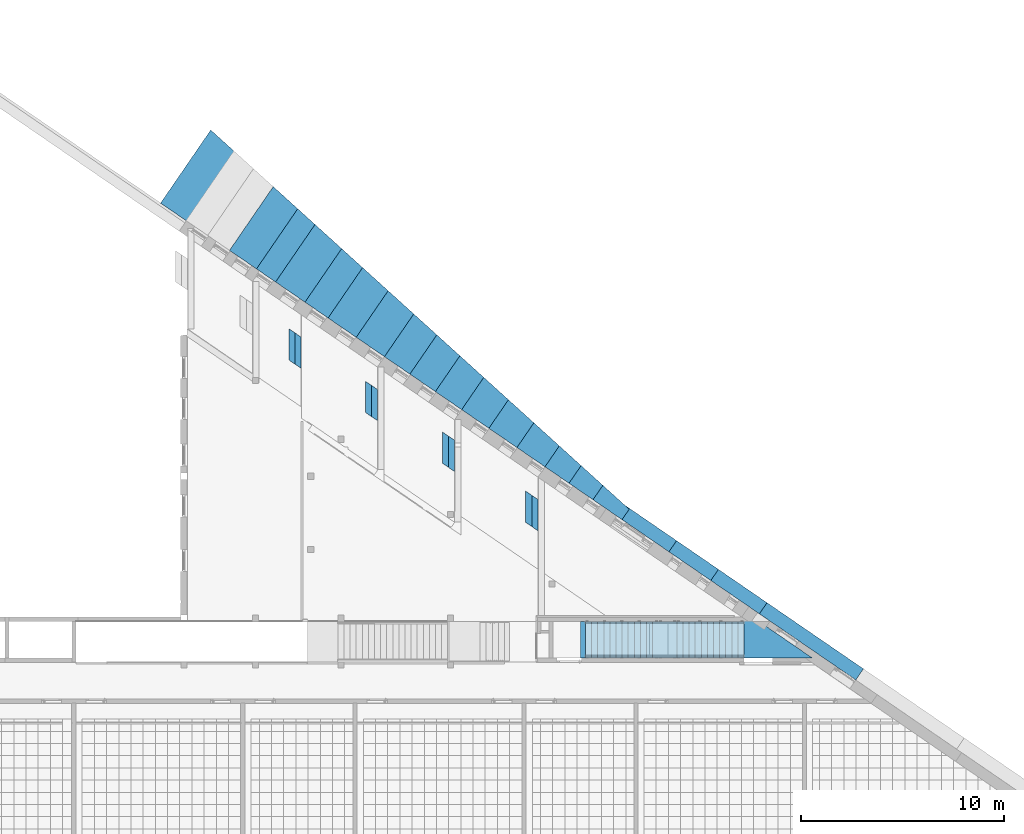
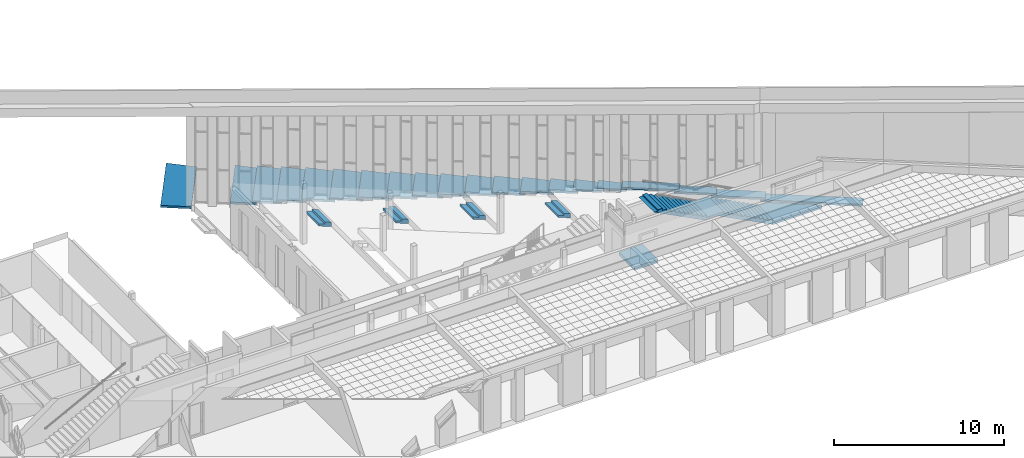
# One storey, part 48 of 79: 27 stairs.
"""IFC2X3 building model written with IfcOpenShell, lengths in millimetres."""

import ifcopenshell
import ifcopenshell.guid

model = None  # the IFC model being written
_history = None  # IfcOwnerHistory: only IFC2X3 demands one
_inside = {}  # id of a spatial element -> (the spatial element, [elements in it])
_under = {}  # id of a project, library or spatial element -> (it, [spatial elements below it])
_declared = {}  # id of a project -> (the project, [libraries it declares])
_typed = {}  # id of a type object -> (the type object, [elements of that type])
_made_of = {}  # id of a material, layer set ... -> (it, [elements and type objects made of it])


def new_model(schema):
    """Start an empty IFC model of exactly this schema.

    Asked for "IFC4X3", IfcOpenShell would pick the latest addendum, in which some entities
    have other attributes; the version numbers below select the first issue.
    IFC2X3 requires an IfcOwnerHistory on every rooted entity: one is made here for all.
    """
    global model, _history
    if schema == "IFC4X3":
        model = ifcopenshell.file(schema_version=(4, 3, 0, 0))
    else:
        model = ifcopenshell.file(schema=schema)
    _inside.clear()
    _under.clear()
    _declared.clear()
    _typed.clear()
    _made_of.clear()
    _history = None
    if model.schema == "IFC2X3":
        org = make("IfcOrganization", Name="unknown")
        user = make(
            "IfcPersonAndOrganization",
            ThePerson=make("IfcPerson", FamilyName="unknown"),
            TheOrganization=org,
        )
        app = make(
            "IfcApplication",
            ApplicationDeveloper=org,
            Version="unknown",
            ApplicationFullName="unknown",
            ApplicationIdentifier="unknown",
        )
        _history = make(
            "IfcOwnerHistory",
            OwningUser=user,
            OwningApplication=app,
            ChangeAction="ADDED",
            CreationDate=0,
        )
    return model


def make(cls, **values):
    """One entity of the class cls with the attributes given. An attribute that is None is left unset."""
    return model.create_entity(
        cls, **{name: value for name, value in values.items() if value is not None}
    )


def entity(cls, *values):
    """Any entity or typed value of the class cls, its attributes in the order of the schema. None: left unset."""
    e = model.create_entity(cls)
    for i, value in enumerate(values):
        if value is not None:
            e[i] = value
    return e


def rooted(cls, **values):
    """An entity with a GlobalId (a new one), such as an element, a storey or a relation."""
    return make(cls, GlobalId=ifcopenshell.guid.new(), OwnerHistory=_history, **values)


def si_unit(unit_type, name, prefix=None):
    """IfcSIUnit, for example si_unit("LENGTHUNIT", "METRE", prefix="MILLI")."""
    return make("IfcSIUnit", UnitType=unit_type, Prefix=prefix, Name=name)


def converted_unit(unit_type, name, factor, base, dimensions=None, offset=None):
    """IfcConversionBasedUnit, such as the inch: factor (a typed value) times the base unit."""
    return make(
        "IfcConversionBasedUnit"
        if offset is None
        else "IfcConversionBasedUnitWithOffset",
        ConversionOffset=offset,
        Dimensions=None
        if dimensions is None
        else entity("IfcDimensionalExponents", *dimensions),
        UnitType=unit_type,
        Name=name,
        ConversionFactor=make(
            "IfcMeasureWithUnit", ValueComponent=factor, UnitComponent=base
        ),
    )


def derived_unit(unit_type, elements):
    """IfcDerivedUnit: a product of units, each with its exponent."""
    return make(
        "IfcDerivedUnit",
        Elements=[
            make("IfcDerivedUnitElement", Unit=unit, Exponent=power)
            for unit, power in elements
        ],
        UnitType=unit_type,
    )


def money_unit(currency):
    """IfcMonetaryUnit."""
    return make("IfcMonetaryUnit", Currency=currency)


def assignment(units):
    """IfcUnitAssignment: the units of a project."""
    return None if units is None else make("IfcUnitAssignment", Units=units)


def point(xyz):
    """IfcCartesianPoint."""
    return None if xyz is None else make("IfcCartesianPoint", Coordinates=xyz)


def direction(xyz):
    """IfcDirection."""
    return None if xyz is None else make("IfcDirection", DirectionRatios=xyz)


def frame(location, z_axis=None, x_axis=None):
    """IfcAxis2Placement3D, a coordinate frame: its origin and axes. An axis left out is left unset."""
    return make(
        "IfcAxis2Placement3D",
        Location=point(location),
        Axis=direction(z_axis),
        RefDirection=direction(x_axis),
    )


def origin_with_axes():
    """The frame at (0, 0, 0) with the z axis (0, 0, 1) and the x axis (1, 0, 0) written out."""
    return frame((0.0, 0.0, 0.0), z_axis=(0.0, 0.0, 1.0), x_axis=(1.0, 0.0, 0.0))


def place(relative_to, where):
    """IfcLocalPlacement: puts the frame where relative to a parent placement (None: the world)."""
    return make(
        "IfcLocalPlacement", PlacementRelTo=relative_to, RelativePlacement=where
    )


def context(
    kind, dimensions, precision=None, world=None, true_north=None, identifier=None
):
    """IfcGeometricRepresentationContext, for example the 3D "Model" context."""
    return make(
        "IfcGeometricRepresentationContext",
        ContextIdentifier=identifier,
        ContextType=kind,
        CoordinateSpaceDimension=dimensions,
        Precision=precision,
        WorldCoordinateSystem=world,
        TrueNorth=true_north,
    )


def subcontext(parent, identifier, kind, view, scale=None):
    """IfcGeometricRepresentationSubContext, for example "Body" below "Model"."""
    return make(
        "IfcGeometricRepresentationSubContext",
        ContextIdentifier=identifier,
        ContextType=kind,
        ParentContext=parent,
        TargetScale=scale,
        TargetView=view,
    )


def project(units=None, contexts=None):
    """IfcProject with its units and contexts."""
    return rooted(
        "IfcProject",
        Name="project",
        RepresentationContexts=contexts,
        UnitsInContext=assignment(units),
    )


def spatial(cls, under=None, at=None, **own):
    """A site, building, storey or space (cls), placed at a placement, below another one or the project."""
    s = rooted(cls, ObjectPlacement=at, **own)
    if under is not None:
        _under.setdefault(under.id(), (under, []))[1].append(s)
    return s


def faces_of(points, faces, orient=None, outer=None):
    """IfcFace entities. A face is a list of loops; a loop is a list of indices into points, from 0.

    orient and outer hold one flag for each loop. By default every Orientation is true, the
    first loop of a face is its IfcFaceOuterBound and the others are IfcFaceBound.
    """
    made = []
    for i, loops in enumerate(faces):
        bounds = []
        for j, loop in enumerate(loops):
            is_outer = j == 0 if outer is None else outer[i][j]
            bounds.append(
                make(
                    "IfcFaceOuterBound" if is_outer else "IfcFaceBound",
                    Bound=make("IfcPolyLoop", Polygon=[points[k] for k in loop]),
                    Orientation=True if orient is None else orient[i][j],
                )
            )
        made.append(make("IfcFace", Bounds=bounds))
    return made


def faceted_brep(points, faces, orient=None, outer=None, voids=None):
    """IfcFacetedBrep: a solid bounded by flat faces; with voids (closed shells), ...WithVoids."""
    shared = [point(p) for p in points]
    hull = make("IfcClosedShell", CfsFaces=faces_of(shared, faces, orient, outer))
    if voids is None:
        return make("IfcFacetedBrep", Outer=hull)
    return make(
        "IfcFacetedBrepWithVoids",
        Outer=hull,
        Voids=[
            make(cls, CfsFaces=faces_of(shared, fs, o, b)) for cls, fs, o, b in voids
        ],
    )


def shape(context_of_items, identifier, shape_type, items):
    """IfcShapeRepresentation: the items that make up one representation, for example the "Body"."""
    return make(
        "IfcShapeRepresentation",
        ContextOfItems=context_of_items,
        RepresentationIdentifier=identifier,
        RepresentationType=shape_type,
        Items=items,
    )


def material(Name=None, Category=None):
    """IfcMaterial."""
    return make("IfcMaterial", Name=Name, Category=Category)


def material_list(materials):
    """IfcMaterialList."""
    return make("IfcMaterialList", Materials=materials)


def made_of(thing, what):
    """Note that an element or type object is made of a material, layer set ...; save() writes the relation."""
    if what is not None:
        _made_of.setdefault(what.id(), (what, []))[1].append(thing)
    return thing


def element(
    cls,
    number,
    at=None,
    inside=None,
    cuts=None,
    type_object=None,
    material=None,
    context=None,
    identifier="Body",
    shape_type=None,
    held_by="IfcProductDefinitionShape",
    body=None,
    shapes=None,
    **own,
):
    """One element of the class cls, such as IfcWall. Its Tag is "e" and its number.

    at: its placement. inside: the storey or other place that contains it. cuts: it is an
    opening in that element (IfcRelVoidsElement). A single representation is given by context,
    identifier, shape_type and body (its items); several are given by shapes. held_by: the class
    of the entity that holds the representations. save() writes the other relations.
    """
    e = rooted(cls, Tag="e%d" % number, ObjectPlacement=at, **own)
    if body is not None:
        shapes = [shape(context, identifier, shape_type, body)]
    if shapes is not None:
        e.Representation = make(held_by, Representations=shapes)
    if inside is not None:
        _inside.setdefault(inside.id(), (inside, []))[1].append(e)
    if cuts is not None:
        rooted(
            "IfcRelVoidsElement", RelatingBuildingElement=cuts, RelatedOpeningElement=e
        )
    if type_object is not None:
        _typed.setdefault(type_object.id(), (type_object, []))[1].append(e)
    return made_of(e, material)


def aggregate(whole, parts):
    """IfcRelAggregates: a whole, such as a stair, and the parts it consists of."""
    return rooted("IfcRelAggregates", RelatingObject=whole, RelatedObjects=parts)


def save(model, path):
    """Write the relations noted so far, then the file.

    IfcRelAggregates (storeys below a building ...), IfcRelContainedInSpatialStructure (elements
    in a storey), IfcRelDefinesByType, IfcRelAssociatesMaterial and IfcRelDeclares: one each for
    every whole, place, type object, material and project.
    """
    for whole, parts in _under.values():
        aggregate(whole, parts)
    for where, things in _inside.values():
        rooted(
            "IfcRelContainedInSpatialStructure",
            RelatedElements=things,
            RelatingStructure=where,
        )
    for kind, things in _typed.values():
        rooted("IfcRelDefinesByType", RelatedObjects=things, RelatingType=kind)
    for what, things in _made_of.values():
        rooted("IfcRelAssociatesMaterial", RelatedObjects=things, RelatingMaterial=what)
    for by, libraries in _declared.values():
        rooted("IfcRelDeclares", RelatingContext=by, RelatedDefinitions=libraries)
    model.write(path)


model = new_model("IFC2X3")

# Units and contexts
model_context = context("Model", 3, precision=0.01, world=origin_with_axes(), true_north=direction((0.0, 1.0)))
body_context = subcontext(model_context, "Body", "Model", "MODEL_VIEW")
ifc_project = project(units=[si_unit("LENGTHUNIT", "METRE", prefix="MILLI"), si_unit("AREAUNIT", "SQUARE_METRE"), si_unit("VOLUMEUNIT", "CUBIC_METRE"), converted_unit("PLANEANGLEUNIT", "DEGREE", entity("IfcPlaneAngleMeasure", 0.0174532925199), si_unit("PLANEANGLEUNIT", "RADIAN"), dimensions=[0, 0, 0, 0, 0, 0, 0]), si_unit("SOLIDANGLEUNIT", "STERADIAN"), money_unit("EUR"), converted_unit("TIMEUNIT", "Year", entity("IfcTimeMeasure", 31556926.0), si_unit("TIMEUNIT", "SECOND"), dimensions=[0, 0, 1, 0, 0, 0, 0]), si_unit("MASSUNIT", "GRAM", prefix="KILO"), si_unit("THERMODYNAMICTEMPERATUREUNIT", "DEGREE_CELSIUS"), si_unit("LUMINOUSINTENSITYUNIT", "LUMEN"), si_unit("ENERGYUNIT", "JOULE", prefix="MEGA"), derived_unit("THERMALCONDUCTANCEUNIT", [(si_unit("POWERUNIT", "WATT"), 1), (si_unit("LENGTHUNIT", "METRE"), -1), (si_unit("THERMODYNAMICTEMPERATUREUNIT", "KELVIN"), -1)]), derived_unit("SPECIFICHEATCAPACITYUNIT", [(si_unit("ENERGYUNIT", "JOULE"), 1), (si_unit("MASSUNIT", "GRAM", prefix="KILO"), -1), (si_unit("THERMODYNAMICTEMPERATUREUNIT", "KELVIN"), -1)]), derived_unit("MASSDENSITYUNIT", [(si_unit("MASSUNIT", "GRAM", prefix="KILO"), 1), (si_unit("VOLUMEUNIT", "CUBIC_METRE"), -1)])], contexts=[model_context])

# Site, building, storey
site_placement = place(None, origin_with_axes())
site = spatial("IfcSite", under=ifc_project, at=site_placement, Name="L.Koidula tn 11b", CompositionType="ELEMENT")
building_placement = place(site_placement, origin_with_axes())
building = spatial("IfcBuilding", under=site, at=building_placement, Name="Rakvere Riigigümnaasium", CompositionType="ELEMENT")
storey_placement = place(building_placement, frame((0.0, 0.0, 3720.0), z_axis=(0.0, 0.0, 1.0), x_axis=(1.0, 0.0, 0.0)))
storey = spatial("IfcBuildingStorey", under=building, at=storey_placement, Name="2.korrus +3,72", CompositionType="ELEMENT", Elevation=3720.0)

# Stairs
ifc_material_1 = material(Name="Betoon")
ifc_material_list = material_list([ifc_material_1, ifc_material_1, ifc_material_1])
stair_1_placement = place(storey_placement, frame((85589.9999916, 17110.4563089, 0.0), z_axis=(0.0, 0.0, 1.0), x_axis=(-1.0, 0.0, 0.0)))
element("IfcStair", 1, at=stair_1_placement, inside=storey, material=ifc_material_list, Name="TR-04", ShapeType="NOTDEFINED", context=body_context, shape_type="Brep", body=[
    faceted_brep([(3300.0, 0.0, 1705.0), (3300.0, 1810.0, 1705.0), (3000.0, 1810.0, 1705.0), (3000.0, 0.0, 1705.0), (3300.0, 0.0, 1710.0), (3300.0, 1810.0, 1710.0), (3300.0, 1810.0, 1479.8827466), (3200.0, 1810.0, 1428.21607993), (3100.0, 1810.0, 1376.54941327), (3000.0, 1810.0, 1324.8827466), (2925.0, 1810.0, 1286.1327466), (2850.0, 1810.0, 1247.3827466), (2775.0, 1810.0, 1208.6327466), (2700.0, 1810.0, 1169.8827466), (2600.0, 1810.0, 1118.21607993), (2500.0, 1810.0, 1066.54941327), (2400.0, 1810.0, 1014.8827466), (2300.0, 1810.0, 963.216079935), (2200.0, 1810.0, 911.549413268), (2100.0, 1810.0, 859.882746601), (2025.0, 1810.0, 821.132746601), (1950.0, 1810.0, 782.382746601), (1875.0, 1810.0, 743.632746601), (1800.0, 1810.0, 704.882746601), (1725.0, 1810.0, 666.132746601), (1650.0, 1810.0, 627.382746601), (1575.0, 1810.0, 588.632746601), (1500.0, 1810.0, 549.882746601), (1400.0, 1810.0, 498.216079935), (1300.0, 1810.0, 446.549413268), (1200.0, 1810.0, 394.882746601), (1125.0, 1810.0, 356.132746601), (1050.0, 1810.0, 317.382746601), (975.0, 1810.0, 278.632746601), (900.0, 1810.0, 239.882746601), (800.0, 1810.0, 188.216079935), (700.0, 1810.0, 136.549413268), (600.0, 1810.0, 84.8827466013), (525.0, 1810.0, 46.1327466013), (450.0, 1810.0, 7.38274660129), (375.0, 1810.0, -31.3672533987), (300.0, 1810.0, -70.1172533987), (200.0, 1810.0, -121.783920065), (100.0, 1810.0, -173.450586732), (0.0, 1810.0, -225.117253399), (0.0, 1810.0, 155.0), (300.0, 1810.0, 155.0), (300.0, 1810.0, 310.0), (600.0, 1810.0, 310.0), (600.0, 1810.0, 465.0), (900.0, 1810.0, 465.0), (900.0, 1810.0, 620.0), (1200.0, 1810.0, 620.0), (1200.0, 1810.0, 775.0), (1500.0, 1810.0, 775.0), (1500.0, 1810.0, 930.0), (1800.0, 1810.0, 930.0), (1800.0, 1810.0, 1085.0), (2100.0, 1810.0, 1085.0), (2100.0, 1810.0, 1240.0), (2400.0, 1810.0, 1240.0), (2400.0, 1810.0, 1395.0), (2700.0, 1810.0, 1395.0), (2700.0, 1810.0, 1550.0), (3000.0, 1810.0, 1550.0), (3745.38823238, 1810.0, 1710.0), (3000.0, 0.0, 1550.0), (2700.0, 0.0, 1550.0), (2700.0, 0.0, 1395.0), (2400.0, 0.0, 1395.0), (2400.0, 0.0, 1240.0), (2100.0, 0.0, 1240.0), (2100.0, 0.0, 1085.0), (1800.0, 0.0, 1085.0), (1800.0, 0.0, 930.0), (1500.0, 0.0, 930.0), (1500.0, 0.0, 775.0), (1200.0, 0.0, 775.0), (1200.0, 0.0, 620.0), (900.0, 0.0, 620.0), (900.0, 0.0, 465.0), (600.0, 0.0, 465.0), (600.0, 0.0, 310.0), (300.0, 0.0, 310.0), (300.0, 0.0, 155.0), (0.0, 0.0, 155.0), (0.0, 0.0, -225.117253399), (100.0, 0.0, -173.450586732), (200.0, 0.0, -121.783920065), (300.0, 0.0, -70.1172533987), (375.0, 0.0, -31.3672533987), (450.0, 0.0, 7.38274660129), (525.0, 0.0, 46.1327466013), (600.0, 0.0, 84.8827466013), (700.0, 0.0, 136.549413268), (800.0, 0.0, 188.216079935), (900.0, 0.0, 239.882746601), (975.0, 0.0, 278.632746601), (1050.0, 0.0, 317.382746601), (1125.0, 0.0, 356.132746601), (1200.0, 0.0, 394.882746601), (1300.0, 0.0, 446.549413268), (1400.0, 0.0, 498.216079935), (1500.0, 0.0, 549.882746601), (1575.0, 0.0, 588.632746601), (1650.0, 0.0, 627.382746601), (1725.0, 0.0, 666.132746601), (1800.0, 0.0, 704.882746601), (1875.0, 0.0, 743.632746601), (1950.0, 0.0, 782.382746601), (2025.0, 0.0, 821.132746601), (2100.0, 0.0, 859.882746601), (2200.0, 0.0, 911.549413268), (2300.0, 0.0, 963.216079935), (2400.0, 0.0, 1014.8827466), (2500.0, 0.0, 1066.54941327), (2600.0, 0.0, 1118.21607993), (2700.0, 0.0, 1169.8827466), (2775.0, 0.0, 1208.6327466), (2850.0, 0.0, 1247.3827466), (2925.0, 0.0, 1286.1327466), (3000.0, 0.0, 1324.8827466), (3100.0, 0.0, 1376.54941327), (3200.0, 0.0, 1428.21607993), (3300.0, 0.0, 1479.8827466), (3745.38823238, 0.0, 1710.0)], [[[0, 1, 2, 3]], [[1, 0, 4, 5]], [[6, 7, 8, 9, 10, 11, 12, 13, 14, 15, 16, 17, 18, 19, 20, 21, 22, 23, 24, 25, 26, 27, 28, 29, 30, 31, 32, 33, 34, 35, 36, 37, 38, 39, 40, 41, 42, 43, 44, 45, 46, 47, 48, 49, 50, 51, 52, 53, 54, 55, 56, 57, 58, 59, 60, 61, 62, 63, 64, 2, 1, 5, 65]], [[3, 2, 64, 66]], [[0, 3, 66, 67, 68, 69, 70, 71, 72, 73, 74, 75, 76, 77, 78, 79, 80, 81, 82, 83, 84, 85, 86, 87, 88, 89, 90, 91, 92, 93, 94, 95, 96, 97, 98, 99, 100, 101, 102, 103, 104, 105, 106, 107, 108, 109, 110, 111, 112, 113, 114, 115, 116, 117, 118, 119, 120, 121, 122, 123, 124, 125, 4]], [[5, 4, 125, 65]], [[124, 123, 7, 6, 65, 125]], [[122, 8, 7, 123]], [[121, 9, 8, 122]], [[120, 10, 9, 121]], [[119, 11, 10, 120]], [[118, 12, 11, 119]], [[117, 13, 12, 118]], [[116, 14, 13, 117]], [[115, 15, 14, 116]], [[114, 16, 15, 115]], [[113, 17, 16, 114]], [[112, 18, 17, 113]], [[111, 19, 18, 112]], [[110, 20, 19, 111]], [[109, 21, 20, 110]], [[108, 22, 21, 109]], [[107, 23, 22, 108]], [[106, 24, 23, 107]], [[105, 25, 24, 106]], [[104, 26, 25, 105]], [[103, 27, 26, 104]], [[102, 28, 27, 103]], [[101, 29, 28, 102]], [[100, 30, 29, 101]], [[99, 31, 30, 100]], [[98, 32, 31, 99]], [[97, 33, 32, 98]], [[96, 34, 33, 97]], [[95, 35, 34, 96]], [[94, 36, 35, 95]], [[93, 37, 36, 94]], [[92, 38, 37, 93]], [[91, 39, 38, 92]], [[90, 40, 39, 91]], [[89, 41, 40, 90]], [[88, 42, 41, 89]], [[87, 43, 42, 88]], [[86, 44, 43, 87]], [[45, 44, 86, 85]], [[45, 85, 84, 46]], [[83, 47, 46, 84]], [[47, 83, 82, 48]], [[81, 49, 48, 82]], [[49, 81, 80, 50]], [[79, 51, 50, 80]], [[51, 79, 78, 52]], [[77, 53, 52, 78]], [[53, 77, 76, 54]], [[75, 55, 54, 76]], [[55, 75, 74, 56]], [[73, 57, 56, 74]], [[57, 73, 72, 58]], [[71, 59, 58, 72]], [[59, 71, 70, 60]], [[69, 61, 60, 70]], [[61, 69, 68, 62]], [[67, 63, 62, 68]], [[63, 67, 66, 64]]]),
    faceted_brep([(3300.0, 1810.0, 1710.0), (3300.0, 0.0, 1710.0), (3300.0, 0.0, 1860.0), (3300.0, 1810.0, 1860.0), (3600.0, 1810.0, 1710.0), (4200.0, 1810.0, 1710.0), (4500.0, 1810.0, 1710.0), (4500.0, 0.0, 1710.0), (4200.0, 0.0, 1710.0), (3600.0, 0.0, 1710.0), (3600.0, 0.0, 1860.0), (4200.0, 0.0, 1860.0), (4500.0, 0.0, 1860.0), (4500.0, 1810.0, 1860.0), (4200.0, 1810.0, 1860.0), (3600.0, 1810.0, 1860.0)], [[[0, 1, 2, 3]], [[0, 4, 5, 6, 7, 8, 9, 1]], [[1, 9, 10, 2]], [[3, 2, 10, 11, 12, 13, 14, 15]], [[4, 0, 3, 15]], [[5, 4, 15, 14]], [[6, 5, 14, 13]], [[7, 6, 13, 12]], [[8, 7, 12, 11]], [[9, 8, 11, 10]]]),
    faceted_brep([(7800.0, 0.0, 3465.0), (7800.0, 1810.0, 3465.0), (7800.0, 1810.0, 3565.0), (7800.0, 0.0, 3565.0), (8042.16242593, 0.0, 3465.0), (8042.16242593, 1810.0, 3465.0), (7800.0, 1810.0, 3339.8827466), (7700.0, 1810.0, 3288.21607993), (7600.0, 1810.0, 3236.54941327), (7500.0, 1810.0, 3184.8827466), (7425.0, 1810.0, 3146.1327466), (7350.0, 1810.0, 3107.3827466), (7275.0, 1810.0, 3068.6327466), (7200.0, 1810.0, 3029.8827466), (7100.0, 1810.0, 2978.21607993), (7000.0, 1810.0, 2926.54941327), (6900.0, 1810.0, 2874.8827466), (6825.0, 1810.0, 2836.1327466), (6750.0, 1810.0, 2797.3827466), (6675.0, 1810.0, 2758.6327466), (6600.0, 1810.0, 2719.8827466), (6500.0, 1810.0, 2668.21607993), (6400.0, 1810.0, 2616.54941327), (6300.0, 1810.0, 2564.8827466), (6200.0, 1810.0, 2513.21607993), (6100.0, 1810.0, 2461.54941327), (6000.0, 1810.0, 2409.8827466), (5900.0, 1810.0, 2358.21607993), (5800.0, 1810.0, 2306.54941327), (5700.0, 1810.0, 2254.8827466), (5600.0, 1810.0, 2203.21607993), (5500.0, 1810.0, 2151.54941327), (5400.0, 1810.0, 2099.8827466), (5325.0, 1810.0, 2061.1327466), (5250.0, 1810.0, 2022.3827466), (5175.0, 1810.0, 1983.6327466), (5100.0, 1810.0, 1944.8827466), (5000.0, 1810.0, 1893.21607993), (4900.0, 1810.0, 1841.54941327), (4800.0, 1810.0, 1789.8827466), (4700.0, 1810.0, 1738.21607993), (4645.38823238, 1810.0, 1710.0), (4500.0, 1810.0, 1710.0), (4500.0, 1810.0, 2015.0), (4800.0, 1810.0, 2015.0), (4800.0, 1810.0, 2170.0), (5100.0, 1810.0, 2170.0), (5100.0, 1810.0, 2325.0), (5400.0, 1810.0, 2325.0), (5400.0, 1810.0, 2480.0), (5700.0, 1810.0, 2480.0), (5700.0, 1810.0, 2635.0), (6000.0, 1810.0, 2635.0), (6000.0, 1810.0, 2790.0), (6300.0, 1810.0, 2790.0), (6300.0, 1810.0, 2945.0), (6600.0, 1810.0, 2945.0), (6600.0, 1810.0, 3100.0), (6900.0, 1810.0, 3100.0), (6900.0, 1810.0, 3255.0), (7200.0, 1810.0, 3255.0), (7200.0, 1810.0, 3410.0), (7500.0, 1810.0, 3410.0), (7500.0, 1810.0, 3565.0), (7500.0, 0.0, 3565.0), (7500.0, 0.0, 3410.0), (7200.0, 0.0, 3410.0), (7200.0, 0.0, 3255.0), (6900.0, 0.0, 3255.0), (6900.0, 0.0, 3100.0), (6600.0, 0.0, 3100.0), (6600.0, 0.0, 2945.0), (6300.0, 0.0, 2945.0), (6300.0, 0.0, 2790.0), (6000.0, 0.0, 2790.0), (6000.0, 0.0, 2635.0), (5700.0, 0.0, 2635.0), (5700.0, 0.0, 2480.0), (5400.0, 0.0, 2480.0), (5400.0, 0.0, 2325.0), (5100.0, 0.0, 2325.0), (5100.0, 0.0, 2170.0), (4800.0, 0.0, 2170.0), (4800.0, 0.0, 2015.0), (4500.0, 0.0, 2015.0), (4500.0, 0.0, 1710.0), (4645.38823238, 0.0, 1710.0), (4700.0, 0.0, 1738.21607993), (4800.0, 0.0, 1789.8827466), (4900.0, 0.0, 1841.54941327), (5000.0, 0.0, 1893.21607993), (5100.0, 0.0, 1944.8827466), (5175.0, 0.0, 1983.6327466), (5250.0, 0.0, 2022.3827466), (5325.0, 0.0, 2061.1327466), (5400.0, 0.0, 2099.8827466), (5500.0, 0.0, 2151.54941327), (5600.0, 0.0, 2203.21607993), (5700.0, 0.0, 2254.8827466), (5800.0, 0.0, 2306.54941327), (5900.0, 0.0, 2358.21607993), (6000.0, 0.0, 2409.8827466), (6100.0, 0.0, 2461.54941327), (6200.0, 0.0, 2513.21607993), (6300.0, 0.0, 2564.8827466), (6400.0, 0.0, 2616.54941327), (6500.0, 0.0, 2668.21607993), (6600.0, 0.0, 2719.8827466), (6675.0, 0.0, 2758.6327466), (6750.0, 0.0, 2797.3827466), (6825.0, 0.0, 2836.1327466), (6900.0, 0.0, 2874.8827466), (7000.0, 0.0, 2926.54941327), (7100.0, 0.0, 2978.21607993), (7200.0, 0.0, 3029.8827466), (7275.0, 0.0, 3068.6327466), (7350.0, 0.0, 3107.3827466), (7425.0, 0.0, 3146.1327466), (7500.0, 0.0, 3184.8827466), (7600.0, 0.0, 3236.54941327), (7700.0, 0.0, 3288.21607993), (7800.0, 0.0, 3339.8827466)], [[[0, 1, 2, 3]], [[1, 0, 4, 5]], [[6, 7, 8, 9, 10, 11, 12, 13, 14, 15, 16, 17, 18, 19, 20, 21, 22, 23, 24, 25, 26, 27, 28, 29, 30, 31, 32, 33, 34, 35, 36, 37, 38, 39, 40, 41, 42, 43, 44, 45, 46, 47, 48, 49, 50, 51, 52, 53, 54, 55, 56, 57, 58, 59, 60, 61, 62, 63, 2, 1, 5]], [[64, 3, 2, 63]], [[0, 3, 64, 65, 66, 67, 68, 69, 70, 71, 72, 73, 74, 75, 76, 77, 78, 79, 80, 81, 82, 83, 84, 85, 86, 87, 88, 89, 90, 91, 92, 93, 94, 95, 96, 97, 98, 99, 100, 101, 102, 103, 104, 105, 106, 107, 108, 109, 110, 111, 112, 113, 114, 115, 116, 117, 118, 119, 120, 121, 4]], [[121, 120, 7, 6, 5, 4]], [[119, 8, 7, 120]], [[118, 9, 8, 119]], [[117, 10, 9, 118]], [[116, 11, 10, 117]], [[115, 12, 11, 116]], [[114, 13, 12, 115]], [[113, 14, 13, 114]], [[112, 15, 14, 113]], [[111, 16, 15, 112]], [[110, 17, 16, 111]], [[109, 18, 17, 110]], [[108, 19, 18, 109]], [[107, 20, 19, 108]], [[106, 21, 20, 107]], [[105, 22, 21, 106]], [[104, 23, 22, 105]], [[103, 24, 23, 104]], [[102, 25, 24, 103]], [[101, 26, 25, 102]], [[100, 27, 26, 101]], [[99, 28, 27, 100]], [[98, 29, 28, 99]], [[97, 30, 29, 98]], [[96, 31, 30, 97]], [[95, 32, 31, 96]], [[94, 33, 32, 95]], [[93, 34, 33, 94]], [[92, 35, 34, 93]], [[91, 36, 35, 92]], [[90, 37, 36, 91]], [[89, 38, 37, 90]], [[88, 39, 38, 89]], [[87, 40, 39, 88]], [[86, 41, 40, 87]], [[85, 42, 41, 86]], [[42, 85, 84, 43]], [[43, 84, 83, 44]], [[82, 45, 44, 83]], [[45, 82, 81, 46]], [[80, 47, 46, 81]], [[47, 80, 79, 48]], [[78, 49, 48, 79]], [[49, 78, 77, 50]], [[76, 51, 50, 77]], [[51, 76, 75, 52]], [[74, 53, 52, 75]], [[53, 74, 73, 54]], [[72, 55, 54, 73]], [[55, 72, 71, 56]], [[70, 57, 56, 71]], [[57, 70, 69, 58]], [[68, 59, 58, 69]], [[59, 68, 67, 60]], [[66, 61, 60, 67]], [[61, 66, 65, 62]], [[64, 63, 62, 65]]]),
])
stair_2_placement = place(storey_placement, frame((63190.0209265, 29612.4424466, -1395.0), z_axis=(0.0, 0.0, 1.0), x_axis=(1.0, 0.0, 0.0)))
element("IfcStair", 2, at=stair_2_placement, inside=storey, material=ifc_material_1, Name="Trepp", ShapeType="NOTDEFINED", context=body_context, shape_type="Brep", body=[
    faceted_brep([(300.0, 153.251805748, 155.0), (300.0, 1693.26263952, 155.0), (4.68853542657e-05, 1899.00763482, 155.0), (4.68853542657e-05, 358.965165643, 155.0), (300.0, 153.251805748, 310.0), (300.0, 1693.26263952, 310.0), (4.68853542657e-05, 1899.00763482, 0.0), (600.000004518, 1487.51760896, 310.0), (600.000004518, 1487.51760896, 0.0), (4.68853542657e-05, 358.965165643, 0.0), (600.000000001, -52.4615862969, 0.0), (600.000000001, -52.4615862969, 310.0)], [[[0, 1, 2, 3]], [[1, 0, 4, 5]], [[6, 2, 1, 5, 7, 8]], [[2, 6, 9, 3]], [[0, 3, 9, 10, 11, 4]], [[7, 5, 4, 11]], [[11, 10, 8, 7]], [[8, 10, 9, 6]]]),
])
stair_3_placement = place(storey_placement, frame((70739.9980729, 24535.2715884, -465.0), z_axis=(0.0, 0.0, 1.0), x_axis=(1.0, 0.0, 0.0)))
element("IfcStair", 3, at=stair_3_placement, inside=storey, material=ifc_material_1, Name="Trepp", ShapeType="NOTDEFINED", context=body_context, shape_type="Brep", body=[
    faceted_brep([(300.0, 152.058707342, 155.0), (300.0, 1692.06949597, 155.0), (0.0, 1897.81447449, 155.0), (0.0, 357.772096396, 155.0), (300.0, 152.058707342, 310.0), (300.0, 1692.06949597, 310.0), (0.0, 1897.81447449, 0.0), (600.0, 1486.32451745, 310.0), (600.0, 1486.32451745, 0.0), (0.0, 357.772096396, 0.0), (600.0, -53.6546817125, 0.0), (600.0, -53.6546817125, 310.0)], [[[0, 1, 2, 3]], [[1, 0, 4, 5]], [[6, 2, 1, 5, 7, 8]], [[2, 6, 9, 3]], [[0, 3, 9, 10, 11, 4]], [[7, 5, 4, 11]], [[11, 10, 8, 7]], [[8, 10, 9, 6]]]),
])
stair_4_placement = place(storey_placement, frame((75989.9821418, 15300.4792445, 0.0), z_axis=(0.0, 0.0, 1.0), x_axis=(1.0, 0.0, 0.0)))
element("IfcStair", 4, at=stair_4_placement, inside=storey, material=ifc_material_1, Name="TR-03", ShapeType="NOTDEFINED", context=body_context, shape_type="Brep", body=[
    faceted_brep([(199.997738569, 1809.97626778, -250.0), (199.997745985, -5.02933961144e-05, -250.0), (199.997745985, -5.02933961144e-05, 0.0), (199.997738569, 1809.97626778, 0.0), (1800.01785205, -0.000452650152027, -250.0), (1800.01785205, 1809.97626778, -250.0), (1800.01785205, -0.000452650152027, 0.0), (200.026989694, 1809.97629966, 0.0), (1800.01785205, 1809.97629896, 0.0)], [[[0, 1, 2, 3]], [[4, 1, 0, 5]], [[6, 2, 1, 4]], [[7, 3, 2, 6, 8]], [[5, 0, 3, 7, 8]], [[8, 6, 4, 5]]]),
])
ifc_material_2 = material(Name="Betoon element / plaat")
stair_5_placement = place(storey_placement, frame((85589.9999916, 17119.8980157, 0.0), z_axis=(0.0, 0.0, 1.0), x_axis=(1.0, 0.0, 0.0)))
element("IfcStair", 5, at=stair_5_placement, inside=storey, material=ifc_material_2, Name="TR-04", ShapeType="NOTDEFINED", context=body_context, shape_type="Brep", body=[
    faceted_brep([(0.0, -1819.44170683, 0.0), (0.0, 0.0, 0.0), (0.0, 0.0, -250.0), (0.0, -1819.44170683, -250.0), (3369.63875238, -1819.44788062, 0.0), (716.917350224, 0.000129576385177, 0.0), (716.917350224, 0.000129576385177, -250.0), (3369.63875238, -1819.44788062, -250.0)], [[[0, 1, 2, 3]], [[4, 5, 1, 0]], [[1, 5, 6, 2]], [[7, 3, 2, 6]], [[4, 0, 3, 7]], [[5, 4, 7, 6]]]),
])
stair_6_placement = place(storey_placement, frame((66945.0094974, 27036.9819088, -929.999981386), z_axis=(0.0, 0.0, 1.0), x_axis=(1.0, 0.0, 0.0)))
element("IfcStair", 6, at=stair_6_placement, inside=storey, material=ifc_material_1, Name="Trepp", ShapeType="NOTDEFINED", context=body_context, shape_type="Brep", body=[
    faceted_brep([(300.0, 153.251805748, 155.0), (300.0, 1693.26263952, 155.0), (4.68853471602e-05, 1899.00763482, 155.0), (4.68853471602e-05, 358.965165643, 155.0), (300.0, 153.251805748, 310.0), (300.0, 1693.26263952, 310.0), (4.68853471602e-05, 1899.00763482, 0.0), (600.000004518, 1487.51760896, 310.0), (600.000004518, 1487.51760896, 0.0), (4.68853471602e-05, 358.965165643, 0.0), (600.000000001, -52.461586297, 0.0), (600.000000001, -52.461586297, 310.0)], [[[0, 1, 2, 3]], [[1, 0, 4, 5]], [[6, 2, 1, 5, 7, 8]], [[2, 6, 9, 3]], [[0, 3, 9, 10, 11, 4]], [[7, 5, 4, 11]], [[11, 10, 8, 7]], [[8, 10, 9, 6]]]),
])
stair_7_placement = place(storey_placement, frame((74845.08798, 21619.6277286, 0.0), z_axis=(0.0, 0.0, 1.0), x_axis=(1.0, 0.0, 0.0)))
element("IfcStair", 7, at=stair_7_placement, inside=storey, material=ifc_material_1, Name="Trepp", ShapeType="NOTDEFINED", context=body_context, shape_type="Brep", body=[
    faceted_brep([(300.0, 152.058505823, 155.0), (300.0, 1692.06929445, 155.0), (0.0, 1897.81447449, 155.0), (0.0, 357.772096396, 155.0), (300.0, 152.058505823, 310.0), (300.0, 1692.06929445, 310.0), (0.0, 1897.81447449, 0.0), (600.0, 1486.32411441, 310.0), (600.0, 1486.32411441, 0.0), (0.0, 357.772096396, 0.0), (600.0, -53.6550847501, 0.0), (600.0, -53.6550847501, 310.0)], [[[0, 1, 2, 3]], [[1, 0, 4, 5]], [[6, 2, 1, 5, 7, 8]], [[2, 6, 9, 3]], [[0, 3, 9, 10, 11, 4]], [[7, 5, 4, 11]], [[11, 10, 8, 7]], [[8, 10, 9, 6]]]),
])
stair_8_placement = place(storey_placement, frame((56867.2938487, 37696.6324927, -2374.79633169), z_axis=(0.0, 0.0, 1.0), x_axis=(1.0, 0.0, 0.0)))
element("IfcStair", 8, at=stair_8_placement, inside=storey, material=ifc_material_1, Name="Astmestik-2", ShapeType="NOTDEFINED", context=body_context, shape_type="Brep", body=[
    faceted_brep([(0.0, 0.0, 0.0), (0.0, 0.0, -150.0), (1496.45562979, -1026.38517967, -150.0), (1496.45562979, -1026.38517967, 0.0), (2469.93871911, 3601.13705326, 0.0), (2469.93871911, 3601.13705326, -150.0), (3826.955114, 2371.45136594, -150.0), (3826.955114, 2371.45136594, 0.0)], [[[0, 1, 2, 3]], [[4, 5, 1, 0]], [[2, 1, 5, 6]], [[3, 2, 6, 7]], [[4, 0, 3, 7]], [[7, 6, 5, 4]]]),
])
stair_9_placement = place(storey_placement, frame((60260.8037857, 35369.0971221, -1909.79633169), z_axis=(0.0, 0.0, 1.0), x_axis=(1.0, 0.0, 0.0)))
element("IfcStair", 9, at=stair_9_placement, inside=storey, material=ifc_material_1, Name="Astmestik-2", ShapeType="NOTDEFINED", context=body_context, shape_type="Brep", body=[
    faceted_brep([(0.0, 0.0, 0.0), (0.0, 0.0, -150.0), (1327.65734891, -910.610244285, -150.0), (1327.65734891, -910.610244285, 0.0), (2153.73404083, 3140.11493374, 0.0), (2153.73404083, 3140.11493374, -150.0), (3357.68072218, 2049.13621903, -150.0), (3357.68072218, 2049.13621903, 0.0)], [[[0, 1, 2, 3]], [[4, 5, 1, 0]], [[2, 1, 5, 6]], [[3, 2, 6, 7]], [[4, 0, 3, 7]], [[7, 6, 5, 4]]]),
])
stair_10_placement = place(storey_placement, frame((61341.0613086, 34628.172841, -1754.79633169), z_axis=(0.0, 0.0, 1.0), x_axis=(1.0, 0.0, 0.0)))
element("IfcStair", 10, at=stair_10_placement, inside=storey, material=ifc_material_1, Name="Astmestik-2", ShapeType="NOTDEFINED", context=body_context, shape_type="Brep", body=[
    faceted_brep([(0.0, 0.0, 0.0), (0.0, 0.0, -150.0), (1434.9075459, -984.170736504, -150.0), (1434.9075459, -984.170736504, 0.0), (2053.07600629, 2993.35688866, 0.0), (2053.07600629, 2993.35688866, -150.0), (3354.27934716, 1814.24724004, -150.0), (3354.27934716, 1814.24724004, 0.0)], [[[0, 1, 2, 3]], [[4, 5, 1, 0]], [[2, 1, 5, 6]], [[3, 2, 6, 7]], [[4, 0, 3, 7]], [[7, 6, 5, 4]]]),
])
stair_11_placement = place(storey_placement, frame((62528.5687204, 33813.688279, -1599.79633169), z_axis=(0.0, 0.0, 1.0), x_axis=(1.0, 0.0, 0.0)))
element("IfcStair", 11, at=stair_11_placement, inside=storey, material=ifc_material_1, Name="Astmestik-2", ShapeType="NOTDEFINED", context=body_context, shape_type="Brep", body=[
    faceted_brep([(0.0, 0.0, 0.0), (0.0, 0.0, -150.0), (1447.30088073, -992.671045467, -150.0), (1447.30088073, -992.671045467, 0.0), (1942.42446298, 2832.02844374, 0.0), (1942.42446298, 2832.02844374, -150.0), (3254.8663319, 1642.73479356, -150.0), (3254.8663319, 1642.73479356, 0.0)], [[[0, 1, 2, 3]], [[4, 5, 1, 0]], [[2, 1, 5, 6]], [[3, 2, 6, 7]], [[4, 0, 3, 7]], [[7, 6, 5, 4]]]),
])
stair_12_placement = place(storey_placement, frame((63728.4697751, 32990.7031967, -1444.79633169), z_axis=(0.0, 0.0, 1.0), x_axis=(1.0, 0.0, 0.0)))
element("IfcStair", 12, at=stair_12_placement, inside=storey, material=ifc_material_1, Name="Astmestik-2", ShapeType="NOTDEFINED", context=body_context, shape_type="Brep", body=[
    faceted_brep([(0.0, 0.0, 0.0), (0.0, 0.0, -150.0), (1632.4822687, -1119.68278466, -150.0), (1632.4822687, -1119.68278466, 0.0), (1830.61808417, 2669.01626436, 0.0), (1830.61808417, 2669.01626436, -150.0), (3310.98620128, 1327.55311593, -150.0), (3310.98620128, 1327.55311593, 0.0)], [[[0, 1, 2, 3]], [[4, 5, 1, 0]], [[2, 1, 5, 6]], [[3, 2, 6, 7]], [[4, 0, 3, 7]], [[7, 6, 5, 4]]]),
])
stair_13_placement = place(storey_placement, frame((65113.5522178, 32040.7063752, -1289.79633169), z_axis=(0.0, 0.0, 1.0), x_axis=(1.0, 0.0, 0.0)))
element("IfcStair", 13, at=stair_13_placement, inside=storey, material=ifc_material_1, Name="Astmestik-2", ShapeType="NOTDEFINED", context=body_context, shape_type="Brep", body=[
    faceted_brep([(0.0, 0.0, 0.0), (0.0, 0.0, -150.0), (1633.04463205, -1120.068497, -150.0), (1633.04463205, -1120.068497, 0.0), (1701.55656559, 2480.84632593, 0.0), (1701.55656559, 2480.84632593, -150.0), (3182.43464523, 1138.92106546, -150.0), (3182.43464523, 1138.92106546, 0.0)], [[[0, 1, 2, 3]], [[4, 5, 1, 0]], [[2, 1, 5, 6]], [[3, 2, 6, 7]], [[4, 0, 3, 7]], [[7, 6, 5, 4]]]),
])
stair_14_placement = place(storey_placement, frame((66499.1943264, 31090.3199085, -1134.79633169), z_axis=(0.0, 0.0, 1.0), x_axis=(1.0, 0.0, 0.0)))
element("IfcStair", 14, at=stair_14_placement, inside=storey, material=ifc_material_1, Name="Astmestik-2", ShapeType="NOTDEFINED", context=body_context, shape_type="Brep", body=[
    faceted_brep([(0.0, 0.0, 0.0), (0.0, 0.0, -150.0), (1637.1129581, -1122.85887012, -150.0), (1637.1129581, -1122.85887012, 0.0), (1572.44534365, 2292.60392067, 0.0), (1572.44534365, 2292.60392067, -150.0), (3057.01266407, 947.335585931, -150.0), (3057.01266407, 947.335585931, 0.0)], [[[0, 1, 2, 3]], [[4, 5, 1, 0]], [[2, 1, 5, 6]], [[3, 2, 6, 7]], [[4, 0, 3, 7]], [[7, 6, 5, 4]]]),
])
stair_15_placement = place(storey_placement, frame((67888.9074585, 30137.1470015, -979.79633169), z_axis=(0.0, 0.0, 1.0), x_axis=(1.0, 0.0, 0.0)))
element("IfcStair", 15, at=stair_15_placement, inside=storey, material=ifc_material_1, Name="Astmestik-2", ShapeType="NOTDEFINED", context=body_context, shape_type="Brep", body=[
    faceted_brep([(0.0, 0.0, 0.0), (0.0, 0.0, -150.0), (1500.53583405, -1029.18369979, -150.0), (1500.53583405, -1029.18369979, 0.0), (1442.95233898, 2103.80488139, 0.0), (1442.95233898, 2103.80488139, -150.0), (2803.66874607, 870.766359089, -150.0), (2803.66874607, 870.766359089, 0.0)], [[[0, 1, 2, 3]], [[4, 5, 1, 0]], [[2, 1, 5, 6]], [[3, 2, 6, 7]], [[4, 0, 3, 7]], [[7, 6, 5, 4]]]),
])
stair_16_placement = place(storey_placement, frame((69142.0434666, 29277.6492649, -824.79633169), z_axis=(0.0, 0.0, 1.0), x_axis=(1.0, 0.0, 0.0)))
element("IfcStair", 16, at=stair_16_placement, inside=storey, material=ifc_material_1, Name="Astmestik-2", ShapeType="NOTDEFINED", context=body_context, shape_type="Brep", body=[
    faceted_brep([(0.0, 0.0, 0.0), (0.0, 0.0, -150.0), (1501.09794543, -1029.56923931, -150.0), (1501.09794543, -1029.56923931, 0.0), (1326.18554503, 1933.56048422, 0.0), (1326.18554503, 1933.56048422, -150.0), (2687.41168615, 700.060056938, -150.0), (2687.41168615, 700.060056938, 0.0)], [[[0, 1, 2, 3]], [[4, 5, 1, 0]], [[2, 1, 5, 6]], [[3, 2, 6, 7]], [[4, 0, 3, 7]], [[7, 6, 5, 4]]]),
])
stair_17_placement = place(storey_placement, frame((70395.741586, 28417.7659887, -669.79633169), z_axis=(0.0, 0.0, 1.0), x_axis=(1.0, 0.0, 0.0)))
element("IfcStair", 17, at=stair_17_placement, inside=storey, material=ifc_material_1, Name="Astmestik-2", ShapeType="NOTDEFINED", context=body_context, shape_type="Brep", body=[
    faceted_brep([(0.0, 0.0, 0.0), (0.0, 0.0, -150.0), (1542.27642223, -1057.8126282, -150.0), (1542.27642223, -1057.8126282, 0.0), (1209.36637374, 1763.23972159, 0.0), (1209.36637374, 1763.23972159, -150.0), (2607.93399497, 495.901616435, -150.0), (2607.93399497, 495.901616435, 0.0)], [[[0, 1, 2, 3]], [[4, 5, 1, 0]], [[2, 1, 5, 6]], [[3, 2, 6, 7]], [[4, 0, 3, 7]], [[7, 6, 5, 4]]]),
])
stair_18_placement = place(storey_placement, frame((71690.6181822, 27529.6393237, -514.79633169), z_axis=(0.0, 0.0, 1.0), x_axis=(1.0, 0.0, 0.0)))
element("IfcStair", 18, at=stair_18_placement, inside=storey, material=ifc_material_1, Name="Astmestik-2", ShapeType="NOTDEFINED", context=body_context, shape_type="Brep", body=[
    faceted_brep([(0.0, 0.0, 0.0), (0.0, 0.0, -150.0), (1587.1255963, -1088.5736656, -150.0), (1587.1255963, -1088.5736656, 0.0), (1088.71020575, 1587.32466998, 0.0), (1088.71020575, 1587.32466998, -150.0), (2527.94797001, 283.132557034, -150.0), (2527.94797001, 283.132557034, 0.0)], [[[0, 1, 2, 3]], [[4, 5, 1, 0]], [[2, 1, 5, 6]], [[3, 2, 6, 7]], [[4, 0, 3, 7]], [[7, 6, 5, 4]]]),
])
stair_19_placement = place(storey_placement, frame((73030.3439525, 26610.7516212, -359.79633169), z_axis=(0.0, 0.0, 1.0), x_axis=(1.0, 0.0, 0.0)))
element("IfcStair", 19, at=stair_19_placement, inside=storey, material=ifc_material_1, Name="Astmestik-2", ShapeType="NOTDEFINED", context=body_context, shape_type="Brep", body=[
    faceted_brep([(0.0, 0.0, 0.0), (0.0, 0.0, -150.0), (1628.92130162, -1117.24039762, -150.0), (1628.92130162, -1117.24039762, 0.0), (963.875006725, 1405.31664797, 0.0), (963.875006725, 1405.31664797, -150.0), (2441.01396648, 66.7796606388, -150.0), (2441.01396648, 66.7796606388, 0.0)], [[[0, 1, 2, 3]], [[4, 5, 1, 0]], [[2, 1, 5, 6]], [[3, 2, 6, 7]], [[4, 0, 3, 7]], [[7, 6, 5, 4]]]),
])
stair_20_placement = place(storey_placement, frame((74411.8654281, 25663.1971868, -204.79633169), z_axis=(0.0, 0.0, 1.0), x_axis=(1.0, 0.0, 0.0)))
element("IfcStair", 20, at=stair_20_placement, inside=storey, material=ifc_material_1, Name="Astmestik-2", ShapeType="NOTDEFINED", context=body_context, shape_type="Brep", body=[
    faceted_brep([(0.0, 0.0, 0.0), (0.0, 0.0, -150.0), (1628.86630196, -1117.20267459, -150.0), (1628.86630196, -1117.20267459, 0.0), (835.145297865, 1217.63048359, 0.0), (835.145297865, 1217.63048359, -150.0), (2312.2343828, -120.861308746, -150.0), (2312.2343828, -120.861308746, 0.0)], [[[0, 1, 2, 3]], [[4, 5, 1, 0]], [[2, 1, 5, 6]], [[3, 2, 6, 7]], [[4, 0, 3, 7]], [[7, 6, 5, 4]]]),
])
stair_21_placement = place(storey_placement, frame((75793.3319041, 24715.6804754, -49.7963316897), z_axis=(0.0, 0.0, 1.0), x_axis=(1.0, 0.0, 0.0)))
element("IfcStair", 21, at=stair_21_placement, inside=storey, material=ifc_material_1, Name="Astmestik-2", ShapeType="NOTDEFINED", context=body_context, shape_type="Brep", body=[
    faceted_brep([(0.0, 0.0, 0.0), (0.0, 0.0, -150.0), (1429.44938714, -980.427108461, -150.0), (1429.44938714, -980.427108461, 0.0), (706.420713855, 1029.95179118, 0.0), (706.420713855, 1029.95179118, -150.0), (2002.67448537, -144.67271296, -150.0), (2002.67448537, -144.67271296, 0.0)], [[[0, 1, 2, 3]], [[4, 5, 1, 0]], [[2, 1, 5, 6]], [[3, 2, 6, 7]], [[4, 0, 3, 7]], [[7, 6, 5, 4]]]),
])
stair_22_placement = place(storey_placement, frame((76975.3811964, 23904.9389382, 105.20366831), z_axis=(0.0, 0.0, 1.0), x_axis=(1.0, 0.0, 0.0)))
element("IfcStair", 22, at=stair_22_placement, inside=storey, material=ifc_material_1, Name="Astmestik-2", ShapeType="NOTDEFINED", context=body_context, shape_type="Brep", body=[
    faceted_brep([(0.0, 0.0, 0.0), (0.0, 0.0, -150.0), (1429.35210864, -980.360387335, -150.0), (1429.35210864, -980.360387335, 0.0), (596.277999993, 869.36521267, 0.0), (596.277999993, 869.36521267, -150.0), (1892.4435574, -305.179354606, -150.0), (1892.4435574, -305.179354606, 0.0)], [[[0, 1, 2, 3]], [[4, 5, 1, 0]], [[2, 1, 5, 6]], [[3, 2, 6, 7]], [[4, 0, 3, 7]], [[7, 6, 5, 4]]]),
])
stair_23_placement = place(storey_placement, frame((78157.3428913, 23094.278237, 260.20366831), z_axis=(0.0, 0.0, 1.0), x_axis=(1.0, 0.0, 0.0)))
element("IfcStair", 23, at=stair_23_placement, inside=storey, material=ifc_material_1, Name="Astmestik-2", ShapeType="NOTDEFINED", context=body_context, shape_type="Brep", body=[
    faceted_brep([(0.0, 0.0, 0.0), (0.0, 0.0, -150.0), (1429.08242539, -980.175417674, -150.0), (1429.08242539, -980.175417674, 0.0), (486.134669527, 708.777735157, 0.0), (486.134669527, 708.777735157, -150.0), (1782.05567267, -465.545224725, -150.0), (1782.05567267, -465.545224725, 0.0)], [[[0, 1, 2, 3]], [[4, 5, 1, 0]], [[2, 1, 5, 6]], [[3, 2, 6, 7]], [[4, 0, 3, 7]], [[7, 6, 5, 4]]]),
])
stair_24_placement = place(storey_placement, frame((79339.0254907, 22283.7887824, 415.20366831), z_axis=(0.0, 0.0, 1.0), x_axis=(1.0, 0.0, 0.0)))
element("IfcStair", 24, at=stair_24_placement, inside=storey, material=ifc_material_1, Name="Astmestik-2", ShapeType="NOTDEFINED", context=body_context, shape_type="Brep", body=[
    faceted_brep([(0.0, 0.0, 0.0), (0.0, 0.0, -150.0), (2803.86073477, -1923.10486643, -150.0), (2803.86073477, -1923.10486643, 0.0), (376.02588029, 548.240618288, 0.0), (376.02588029, 548.240618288, -150.0), (3179.88712663, -1374.86350226, -150.0), (3179.88712663, -1374.86350226, 0.0)], [[[0, 1, 2, 3]], [[4, 5, 1, 0]], [[2, 1, 5, 6]], [[3, 2, 6, 7]], [[4, 0, 3, 7]], [[7, 6, 5, 4]]]),
])
stair_25_placement = place(storey_placement, frame((91094.9975511, 14220.6325784, -49.7963316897), z_axis=(0.0, 0.0, 1.0), x_axis=(1.0, 0.0, 0.0)))
element("IfcStair", 25, at=stair_25_placement, inside=storey, material=ifc_material_1, Name="Astmestik-2", ShapeType="NOTDEFINED", context=body_context, shape_type="Brep", body=[
    faceted_brep([(0.0, 0.0, 0.0), (0.0, 0.0, -150.0), (376.028025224, 548.243745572, -150.0), (376.028025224, 548.243745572, 0.0), (-4993.71410955, 3425.07592711, 0.0), (-4993.71410955, 3425.07592711, -150.0), (-4617.68699546, 3973.31834427, -150.0), (-4617.68699546, 3973.31834427, 0.0)], [[[0, 1, 2, 3]], [[4, 5, 1, 0]], [[2, 1, 5, 6]], [[3, 2, 6, 7]], [[4, 0, 3, 7]], [[7, 6, 5, 4]]]),
])
stair_26_placement = place(storey_placement, frame((86348.6832676, 17476.0225423, 105.20366831), z_axis=(0.0, 0.0, 1.0), x_axis=(1.0, 0.0, 0.0)))
element("IfcStair", 26, at=stair_26_placement, inside=storey, material=ifc_material_1, Name="Astmestik-2", ShapeType="NOTDEFINED", context=body_context, shape_type="Brep", body=[
    faceted_brep([(0.0, 0.0, 0.0), (0.0, 0.0, -150.0), (376.027159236, 548.242482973, -150.0), (376.027159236, 548.242482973, 0.0), (-2638.93147738, 1809.98360703, 0.0), (-2638.93147738, 1809.98360703, -150.0), (-2262.90479963, 2358.225388, -150.0), (-2262.90479963, 2358.225388, 0.0)], [[[0, 1, 2, 3]], [[4, 5, 1, 0]], [[2, 1, 5, 6]], [[3, 2, 6, 7]], [[4, 0, 3, 7]], [[7, 6, 5, 4]]]),
])
stair_27_placement = place(storey_placement, frame((83957.1516162, 19116.3201862, 260.20366831), z_axis=(0.0, 0.0, 1.0), x_axis=(1.0, 0.0, 0.0)))
element("IfcStair", 27, at=stair_27_placement, inside=storey, material=ifc_material_1, Name="Astmestik-2", ShapeType="NOTDEFINED", context=body_context, shape_type="Brep", body=[
    faceted_brep([(0.0, 0.0, 0.0), (0.0, 0.0, -150.0), (376.026722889, 548.241846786, -150.0), (376.026722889, 548.241846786, 0.0), (-2061.66535974, 1414.0497911, 0.0), (-2061.66535974, 1414.0497911, -150.0), (-1685.63901301, 1962.29108945, -150.0), (-1685.63901301, 1962.29108945, 0.0)], [[[0, 1, 2, 3]], [[4, 5, 1, 0]], [[2, 1, 5, 6]], [[3, 2, 6, 7]], [[4, 0, 3, 7]], [[7, 6, 5, 4]]]),
])

save(model, "model.ifc")
